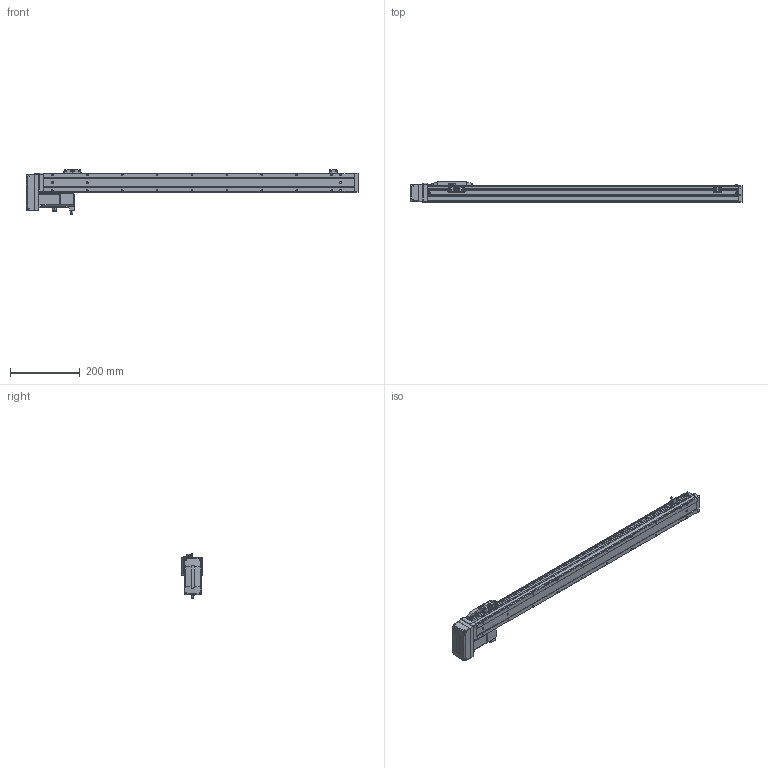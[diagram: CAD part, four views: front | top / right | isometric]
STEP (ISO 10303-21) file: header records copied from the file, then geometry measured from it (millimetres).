
FILE_DESCRIPTION (( 'STEP AP203' ), '1' );
FILE_NAME ('CTH5-L10-S750-BR-C10(¼ò).STEP', '2023-02-04T02:27:15', ( '' ), ( '' ), 'SwSTEP 2.0', 'SolidWorks 2018', '' );
FILE_SCHEMA (( 'CONFIG_CONTROL_DESIGN' ));
Length unit declared in the file: millimetre
Products named in the file (22): M3｡｣; CTH5耜晚蹟隊-1; CTH嫖萇羲壽假蚾啣; CTH5-L10-S750-BR-C10(潠); CTH5ヶ耜啣(潠); CTH5耜晚蹟隊; T10-p1; CTH5賑怢; 100W萇儂; hex nuts, style 1-grades ab gb_GB_FASTENER_NUT_SNAB1 M3-N; CTH5覜茼え; CTH5耜蚾欶; CTH5菁釱-L890; CTH5-BL-T10_body5; CTH100W假蚾啣; 内六角圆柱头螺钉M3-2; PM-Y45; CTH5綴耜啣; CTH5耜蚾蟀諉啣(潠); 嫖萇羲壽郪磁1; 葩璃 蚾饜极16^CTH5-L10-S750-BR-C10(潠); 葩璃 蚾饜极13^CTH8-L10-S50-BM-C40(潠)1
Assembly tree (37 placements, depth 4):
  CTH5-L10-S750-BR-C10(潠)
    CTH5綴耜啣
    CTH5賑怢
    CTH5ヶ耜啣(潠)
    CTH5菁釱-L890
    CTH5耜晚蹟隊  x2
    嫖萇羲壽郪磁1  x2
      CTH嫖萇羲壽假蚾啣
      PM-Y45
      M3｡｣
      内六角圆柱头螺钉M3-2
      hex nuts, style 1-grades ab gb_GB_FASTENER_NUT_SNAB1 M3-N
    CTH5覜茼え
    葩璃 蚾饜极13^CTH8-L10-S50-BM-C40(潠)1
      CTH嫖萇羲壽假蚾啣
      PM-Y45
      内六角圆柱头螺钉M3-2  x2
      M3｡｣  x2
      hex nuts, style 1-grades ab gb_GB_FASTENER_NUT_SNAB1 M3-N  x2
    CTH5耜晚蹟隊-1  x4
    葩璃 蚾饜极16^CTH5-L10-S750-BR-C10(潠)
      CTH5耜蚾蟀諉啣(潠)
      CTH5耜蚾欶
        CTH5-BL-T10_body5
      100W萇儂
        T10-p1
      CTH100W假蚾啣
Bounding box: 950 x 60 x 126.31 mm (x, y, z)
Volume: 2281649.5 mm3; surface area: 314902.6 mm2
Topology: 39 solids, 39 shells, 1643 faces, 4135 edges, 2664 vertices
Faces by surface type: plane 890, cylinder 480, cone 215, torus 40, bspline 18
Entity records: 38677 total; most frequent: CARTESIAN_POINT 7168, DIRECTION 6139, ORIENTED_EDGE 5894, EDGE_CURVE 2947, AXIS2_PLACEMENT_3D 2126, VERTEX_POINT 1892, LINE 1887, VECTOR 1887
